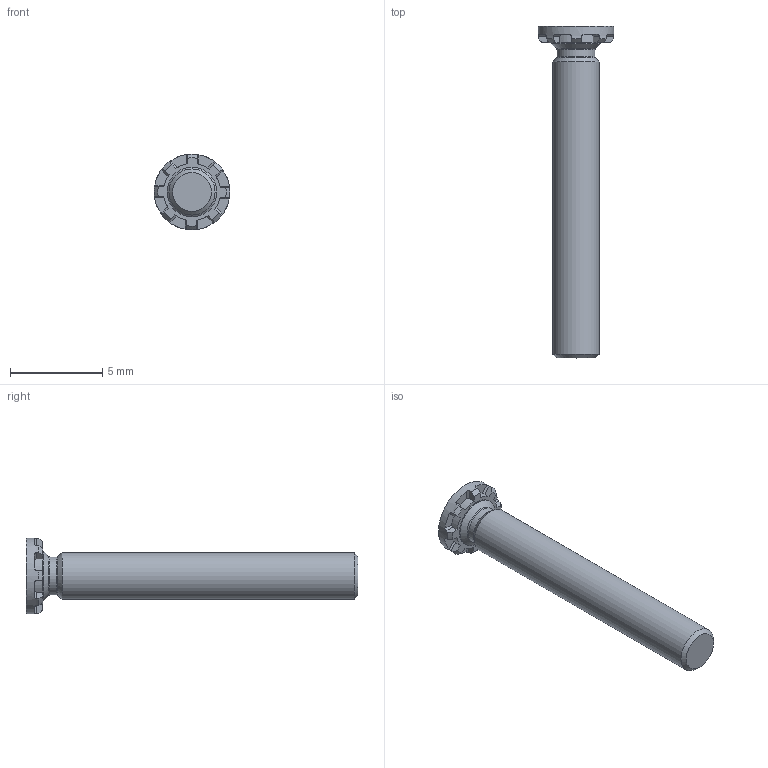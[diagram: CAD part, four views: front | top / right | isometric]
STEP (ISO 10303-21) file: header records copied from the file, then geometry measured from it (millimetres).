
FILE_DESCRIPTION(/* description */ (''),/* implementation_level */ '2;1');
FILE_NAME(/* name */ 'C:\Users\keval.kumar\Desktop\Fastit\Clinch Screw- FH Range\M2.5\Clinch Screw-FH Range_M2.5x18.stp',/* time_stamp */ '2024-03-12T11:47:17+05:00',/* author */ ('keval.kumar'),/* organization */ (''),/* preprocessor_version */ 'ST-DEVELOPER v18.1',/* originating_system */ 'Autodesk Inventor 2022',/* authorisation */ '');
FILE_SCHEMA (('AUTOMOTIVE_DESIGN { 1 0 10303 214 3 1 1 }'));
Length unit declared in the file: millimetre
Products named in the file (1): Clinch Screw-FH Range_M2.5x18
Bounding box: 4.1 x 18 x 4.1 mm (x, y, z)
Volume: 93 mm3; surface area: 172.2 mm2
Topology: 1 solids, 1 shells, 68 faces, 193 edges, 128 vertices
Faces by surface type: plane 43, cylinder 12, cone 11, torus 2
Full cylindrical faces by diameter (mm): 2.05 x1, 2.5 x1, 2.7 x1, 4.1 x1
Entity records: 2278 total; most frequent: CARTESIAN_POINT 422, DIRECTION 405, ORIENTED_EDGE 386, EDGE_CURVE 193, AXIS2_PLACEMENT_3D 159, VERTEX_POINT 128, LINE 87, VECTOR 87
